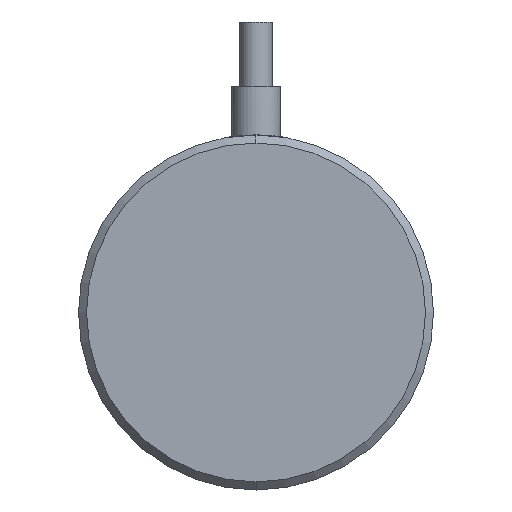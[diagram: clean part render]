
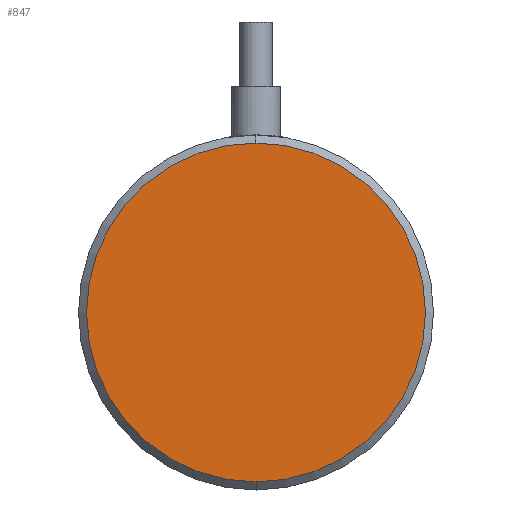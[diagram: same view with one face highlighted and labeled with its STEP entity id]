
A CAD part, front view. The second image highlights one B-rep face of the part: STEP entity #847.
In plain terms, the highlighted planar face has unit normal (0, -1, 0).
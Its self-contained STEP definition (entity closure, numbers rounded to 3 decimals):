
#15 = EDGE_LOOP ( 'NONE', ( #837, #1708 ) ) ;
#72 = AXIS2_PLACEMENT_3D ( 'NONE', #1022, #1680, #1875 ) ;
#132 = VERTEX_POINT ( 'NONE', #2675 ) ;
#666 = DIRECTION ( 'NONE',  ( 0., -1., 0. ) ) ;
#681 = CARTESIAN_POINT ( 'NONE',  ( 0., -10.75, 0. ) ) ;
#760 = CARTESIAN_POINT ( 'NONE',  ( 0., -10.75, 0. ) ) ;
#837 = ORIENTED_EDGE ( 'NONE', *, *, #1773, .T. ) ;
#847 = ADVANCED_FACE ( 'NONE', ( #2231 ), #993, .F. ) ;
#934 = AXIS2_PLACEMENT_3D ( 'NONE', #760, #2679, #1600 ) ;
#993 = PLANE ( 'NONE',  #934 ) ;
#1022 = CARTESIAN_POINT ( 'NONE',  ( 0., -10.75, 0. ) ) ;
#1547 = DIRECTION ( 'NONE',  ( 0., 0., -1. ) ) ;
#1600 = DIRECTION ( 'NONE',  ( 0., 0., -1. ) ) ;
#1629 = EDGE_CURVE ( 'NONE', #1952, #132, #2079, .T. ) ;
#1680 = DIRECTION ( 'NONE',  ( 0., -1., 0. ) ) ;
#1708 = ORIENTED_EDGE ( 'NONE', *, *, #1629, .T. ) ;
#1758 = CARTESIAN_POINT ( 'NONE',  ( 0., -10.75, 10.5 ) ) ;
#1773 = EDGE_CURVE ( 'NONE', #132, #1952, #1817, .T. ) ;
#1817 = CIRCLE ( 'NONE', #2383, 10.5 ) ;
#1875 = DIRECTION ( 'NONE',  ( 0., 0., -1. ) ) ;
#1952 = VERTEX_POINT ( 'NONE', #1758 ) ;
#2079 = CIRCLE ( 'NONE', #72, 10.5 ) ;
#2231 = FACE_OUTER_BOUND ( 'NONE', #15, .T. ) ;
#2383 = AXIS2_PLACEMENT_3D ( 'NONE', #681, #666, #1547 ) ;
#2675 = CARTESIAN_POINT ( 'NONE',  ( 0., -10.75, -10.5 ) ) ;
#2679 = DIRECTION ( 'NONE',  ( 0., 1., 0. ) ) ;
